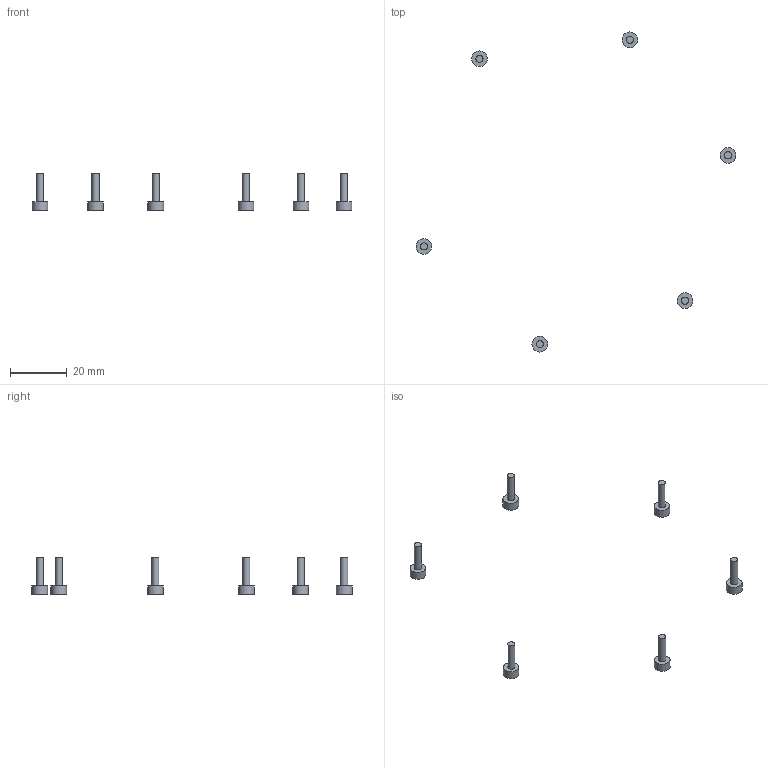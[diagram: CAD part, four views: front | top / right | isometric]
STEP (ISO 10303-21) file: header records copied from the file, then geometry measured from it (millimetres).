
FILE_DESCRIPTION(('Open CASCADE Model'),'2;1');
FILE_NAME('Open CASCADE Shape Model','2026-09-23T04:43:36',('Author'),( 'Open CASCADE'),'Open CASCADE STEP processor 7.9','Open CASCADE 7.9' ,'Unknown');
FILE_SCHEMA(('AUTOMOTIVE_DESIGN { 1 0 10303 214 1 1 1 1 }'));
Length unit declared in the file: millimetre
Products named in the file (7): Open CASCADE STEP translator 7.9 4; Open CASCADE STEP translator 7.9 4.1; Open CASCADE STEP translator 7.9 4.2; Open CASCADE STEP translator 7.9 4.3; Open CASCADE STEP translator 7.9 4.4; Open CASCADE STEP translator 7.9 4.5; Open CASCADE STEP translator 7.9 4.6
Assembly tree (6 placements, depth 2):
  Open CASCADE STEP translator 7.9 4
    Open CASCADE STEP translator 7.9 4.1
    Open CASCADE STEP translator 7.9 4.2
    Open CASCADE STEP translator 7.9 4.3
    Open CASCADE STEP translator 7.9 4.4
    Open CASCADE STEP translator 7.9 4.5
    Open CASCADE STEP translator 7.9 4.6
Bounding box: 112.43 x 112.53 x 13 mm (x, y, z)
Volume: 673.5 mm3; surface area: 1145.3 mm2
Topology: 6 solids, 6 shells, 72 faces, 144 edges, 96 vertices
Faces by surface type: plane 60, cylinder 12
Full cylindrical faces by diameter (mm): 2.5 x6, 5.5 x6
Entity records: 3832 total; most frequent: DIRECTION 614, CARTESIAN_POINT 607, LINE 384, VECTOR 384, ORIENTED_EDGE 288, PCURVE 288, DEFINITIONAL_REPRESENTATION 288, EDGE_CURVE 144
